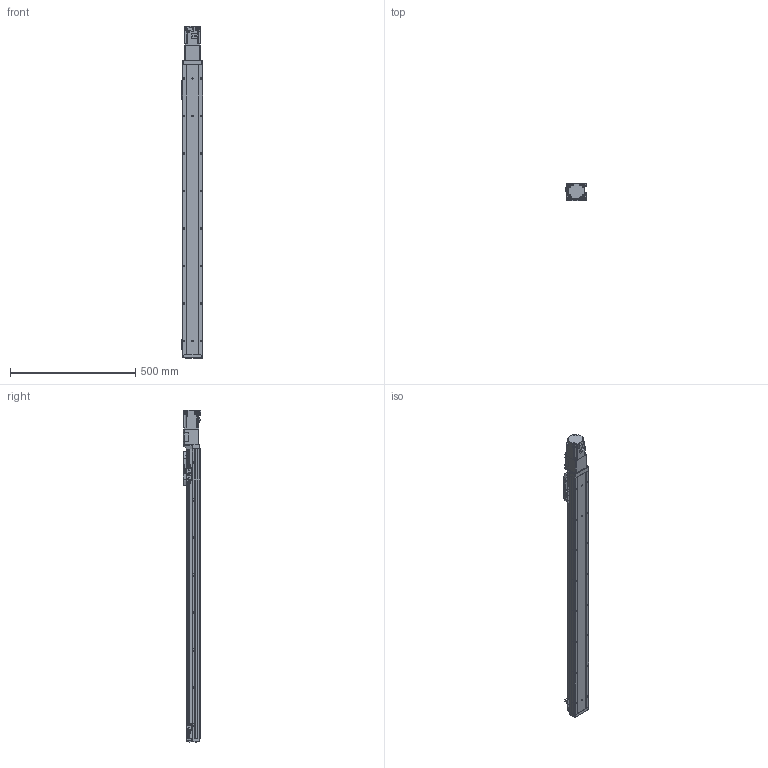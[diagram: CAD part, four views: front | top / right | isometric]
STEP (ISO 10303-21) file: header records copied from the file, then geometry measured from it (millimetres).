
FILE_DESCRIPTION (( 'STEP AP214' ), '1' );
FILE_NAME ('GSH8-1000-BC-M20-1.step', '2025-01-07T06:02:58', ( '' ), ( '' ), 'SwSTEP 2.0', 'SolidWorks 2012', '' );
FILE_SCHEMA (( 'AUTOMOTIVE_DESIGN' ));
Length unit declared in the file: millimetre
Products named in the file (4): GSH8-1000-BC-M20-1; HG-KR23_200W_Motor; GSH8-GY-004; GSH8-BC-011-1000-M20
Assembly tree (3 placements, depth 2):
  GSH8-1000-BC-M20-1
    GSH8-BC-011-1000-M20
    GSH8-GY-004
    HG-KR23_200W_Motor
Bounding box: 84 x 71.3 x 1327.6 mm (x, y, z)
Volume: 2516229.2 mm3; surface area: 698064.6 mm2
Topology: 3 solids, 7 shells, 1165 faces, 3098 edges, 1998 vertices
Faces by surface type: plane 664, cylinder 409, torus 38, cone 26, bspline 24, sphere 4
Entity records: 45484 total; most frequent: CARTESIAN_POINT 10161, DIRECTION 6278, ORIENTED_EDGE 6180, EDGE_CURVE 3090, AXIS2_PLACEMENT_3D 2111, LINE 2056, VECTOR 2056, VERTEX_POINT 1994
